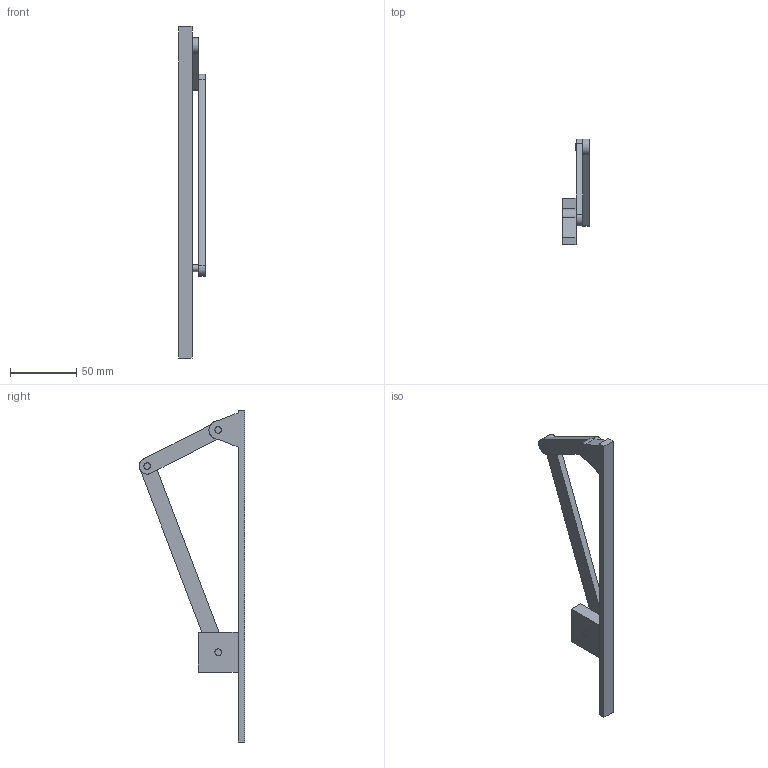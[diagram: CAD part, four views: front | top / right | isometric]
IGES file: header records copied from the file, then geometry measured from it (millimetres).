
Start section: SolidWorks IGES file using analytic representation for surfaces
Global section: file name: C:\Users\User\Documents\Solidworks - Piezas\Mecanismo biela-manivela-corrredor\mecanismo biela manivela corredor.IGS; native system: SolidWorks 2018; preprocessor: SolidWorks 2018; author: User; date: 210901.152700; units: millimetre
Bounding box: 20 x 79.45 x 250 mm (x, y, z)
Surface area: 20823.7 mm2 (no closed solid volume)
Topology: 0 solids, 0 shells, 54 faces, 926 edges, 926 vertices
Faces by surface type: bspline 29, revolution 25
